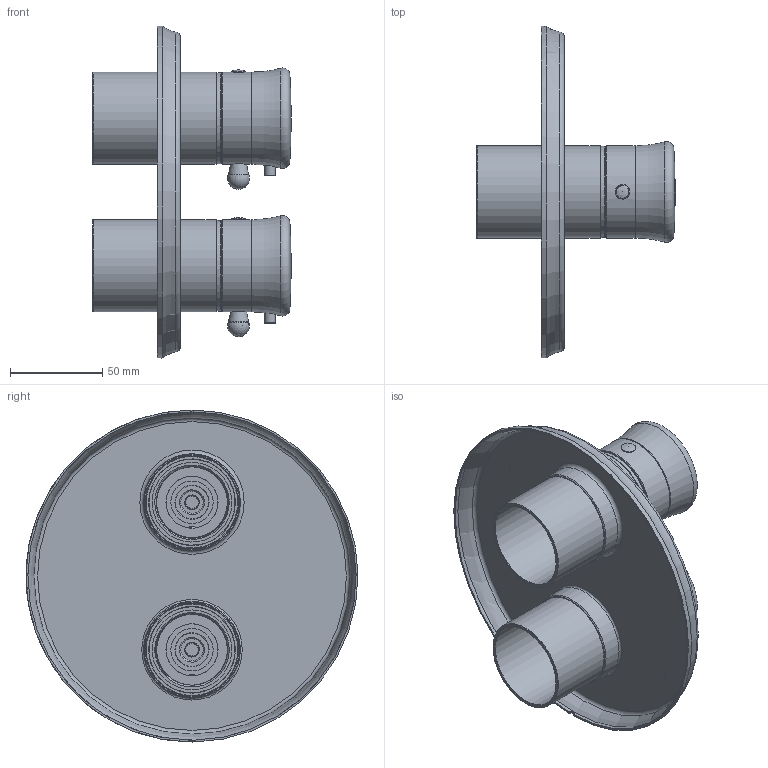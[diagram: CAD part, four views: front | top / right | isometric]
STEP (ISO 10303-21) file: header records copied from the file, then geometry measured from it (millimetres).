
FILE_DESCRIPTION(/* description */ ('HANDLE CONNECTION'),/* implementation_level */ '2;1');
FILE_NAME(/* name */ 'X:\Collections\Classique\Georgian\GN88\TGN88 3D.stp',/* time_stamp */ '2017-05-03T16:50:55-04:00',/* author */ ('simono'),/* organization */ (''),/* preprocessor_version */ 'ST-DEVELOPER v15.6',/* originating_system */ 'Autodesk Inventor 2015',/* authorisation */ '');
FILE_SCHEMA (('AUTOMOTIVE_DESIGN { 1 0 10303 214 3 1 1 }'));
Length unit declared in the file: millimetre
Products named in the file (17): 009-077; 009-078; 390-132; 002-911; 1845; 001-416; 152-050; 003-013; 1979; 1875; 050-888; 052-071; 053-004; 002-796; 152-160; 1816; TGN88
Assembly tree (20 placements, depth 4):
  TGN88
    1875  x2
      1845
        009-077
        009-078
        390-132
        002-911
      1979
        001-416
        152-050
        003-013
    050-888
    052-071  x2
    053-004  x2
    1816  x2
      002-796
      152-160
Bounding box: 107.5 x 179.99 x 180 mm (x, y, z)
Volume: 147411.1 mm3; surface area: 164591.5 mm2
Topology: 23 solids, 23 shells, 1128 faces, 2863 edges, 1845 vertices
Faces by surface type: plane 407, bspline 244, cylinder 225, cone 156, torus 86, sphere 10
Full cylindrical faces by diameter (mm): 2.2 x2, 3 x2, 3.242 x2, 3.342 x2, 4.134 x2, 5 x4, 6 x2, 6.1 x2, 6.5 x4, 8 x2, 8.1 x2, 12 x2, 15 x2, 18 x2, 19 x2, 19.75 x2, 21 x2, 23 x2, 25 x2, 28.2 x4, 29.2 x2, 32.2 x4, 34.3 x4, 35.3 x2, 37.5 x2, 43.2 x2, 45 x2, 46 x2, 46.6 x2, 47 x4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
Entity records: 25496 total; most frequent: CARTESIAN_POINT 12531, ORIENTED_EDGE 2702, DIRECTION 2302, EDGE_CURVE 1350, VERTEX_POINT 931, AXIS2_PLACEMENT_3D 881, EDGE_LOOP 760, ADVANCED_FACE 590
